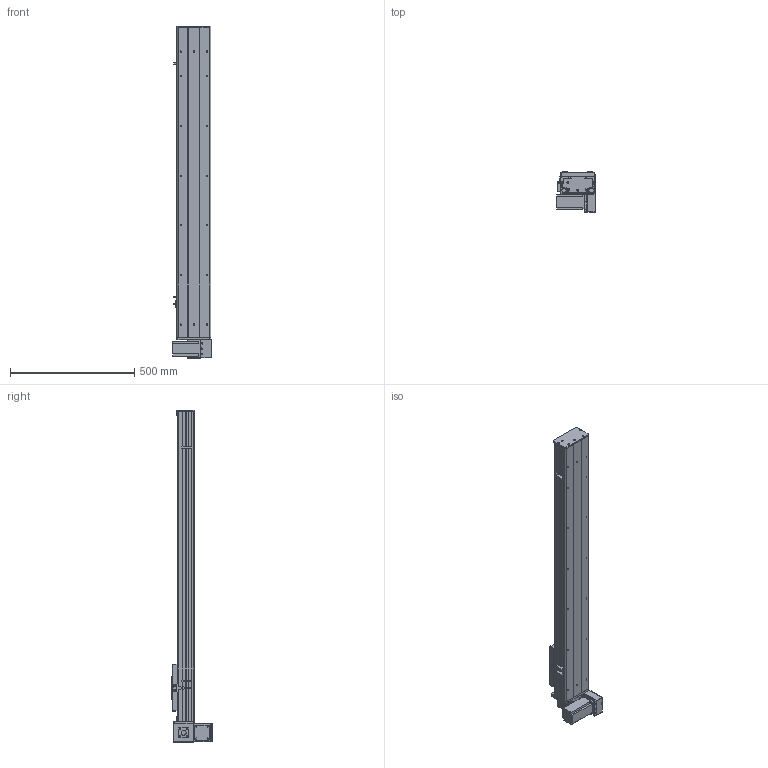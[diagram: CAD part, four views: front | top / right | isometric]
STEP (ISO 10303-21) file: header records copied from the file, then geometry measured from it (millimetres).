
FILE_DESCRIPTION (( 'STEP AP203' ), '1' );
FILE_NAME ('Y135CB-D90-S950-BM-P400W.STEP', '2020-02-19T01:18:08', ( '微软用户' ), ( '微软中国' ), 'SwSTEP 2.0', 'SolidWorks 2017', '' );
FILE_SCHEMA (( 'CONFIG_CONTROL_DESIGN' ));
Length unit declared in the file: millimetre
Products named in the file (18): Y135C-陔俋离換覜結え-; 0B-埴倛裔啣; 5C--俋欶; 0B-源倛裔啣; C-雄赽釱--; 0B-萇儂楊擘啣; Y10B--々湍喘謫眊--666; san松下电机400不带刹车----; 00B-俋欶BM--; 5CB --掛极耜裔啣-; Y10B-耜蚾蟀諉啣----; C-詩湍揤踡え-陔; Y135CB-耜裔; Y135CB-D90-S950-BM-P400W; 135CB--詩湍-CE; 135CB---遴掛极.-; Y100-135俋离換覜ん--; 35CB---喘謫眊楊擘啣
Assembly tree (21 placements, depth 2):
  Y135CB-D90-S950-BM-P400W
    Y135CB-耜裔
    135CB---遴掛极.-
    35CB---喘謫眊楊擘啣
    0B-埴倛裔啣
    0B-源倛裔啣
    0B-萇儂楊擘啣
    san松下电机400不带刹车----
    5CB --掛极耜裔啣-  x2
    C-詩湍揤踡え-陔  x2
    135CB--詩湍-CE
    Y100-135俋离換覜ん--  x3
    Y135C-陔俋离換覜結え-
    5C--俋欶
    C-雄赽釱--
    Y10B--々湍喘謫眊--666
    00B-俋欶BM--
    Y10B-耜蚾蟀諉啣----
Bounding box: 157 x 163.3 x 1338 mm (x, y, z)
Volume: 4256550.2 mm3; surface area: 1664119.8 mm2
Topology: 21 solids, 21 shells, 945 faces, 2527 edges, 1674 vertices
Faces by surface type: cylinder 473, plane 456, cone 16
Entity records: 29349 total; most frequent: DIRECTION 4875, CARTESIAN_POINT 4812, ORIENTED_EDGE 4530, EDGE_CURVE 2265, AXIS2_PLACEMENT_3D 1777, VERTEX_POINT 1502, LINE 1321, VECTOR 1321
